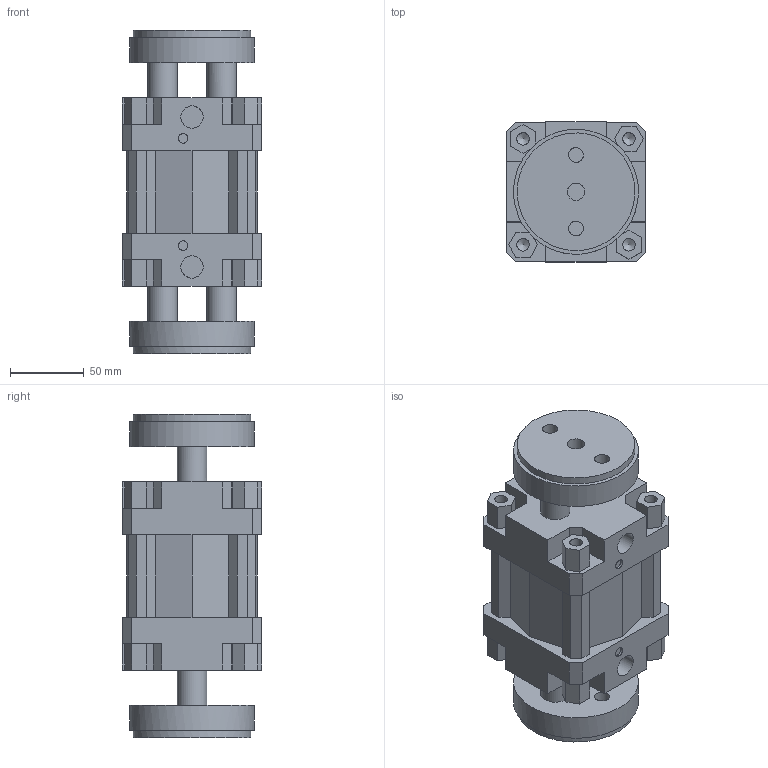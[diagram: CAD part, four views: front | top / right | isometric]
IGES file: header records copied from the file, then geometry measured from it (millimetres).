
Global section: file name: 132#_080_0000_06; native system: Autodesk Inventor 2014; preprocessor: unknown; author: A. Manieri; date: 20161006.162253; units: millimetre
Bounding box: 95 x 95 x 220 mm (x, y, z)
Volume: 1213240.4 mm3; surface area: 188466.8 mm2
Topology: 2 solids, 2 shells, 190 faces, 518 edges, 354 vertices
Faces by surface type: bspline 190
